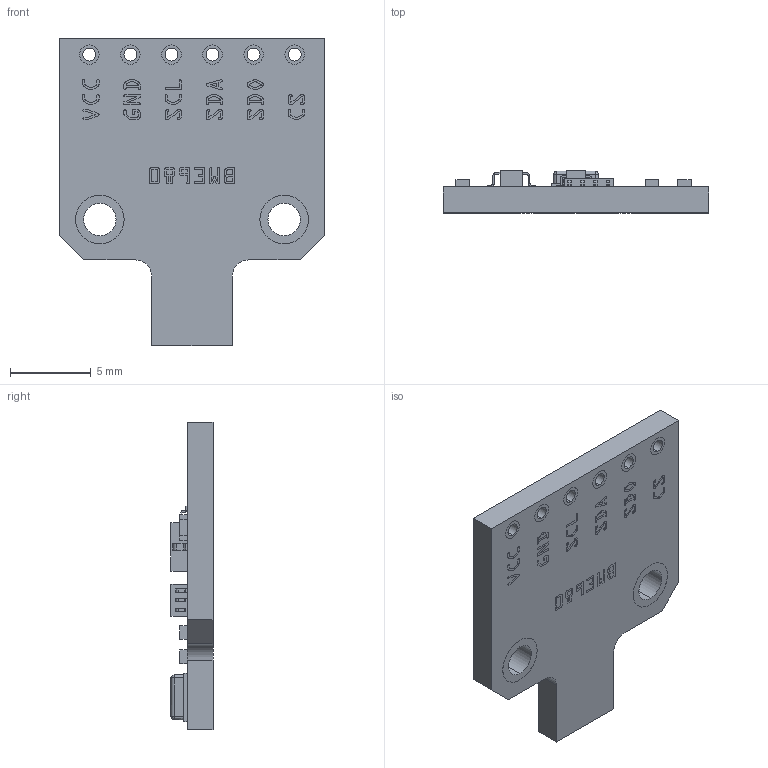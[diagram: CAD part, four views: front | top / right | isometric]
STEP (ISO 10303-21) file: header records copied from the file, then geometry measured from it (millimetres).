
FILE_DESCRIPTION (( 'STEP AP214' ), '1' );
FILE_NAME ('CJMCU-680, BME680 Ambient Temperature, Relative Humidity, Barometric Pressure, and Gas VOC Sensor.STEP', '2021-11-07T03:27:10', ( '' ), ( '' ), 'SwSTEP 2.0', 'SolidWorks 2018', '' );
FILE_SCHEMA (( 'AUTOMOTIVE_DESIGN' ));
Length unit declared in the file: millimetre
Products named in the file (11): Level Signal Conversion Chip, CJMCU-680, BME680 Ambient Temperature, Relative Humidity, Barometric Pressure, and Gas VOC Sensor; PCB, CJMCU-680, BME680 Ambient Temperature, Relative Humidity, Barometric Pressure, and Gas VOC Sensor; SMD Capacitor, Configurable, CJMCU-680, BME680 Ambient Temperature, Relative Humidity, Barometric Pressure, and Gas VOC Sensor_C3; SMD Capacitor, Configurable, CJMCU-680, BME680 Ambient Temperature, Relative Humidity, Barometric Pressure, and Gas VOC Sensor_C2; SMD Capacitor, Configurable, CJMCU-680, BME680 Ambient Temperature, Relative Humidity, Barometric Pressure, and Gas VOC Sensor_C1; SMD Resistor, Configurable, CJMCU-680, BME680 Ambient Temperature, Relative Humidity, Barometric Pressure, and Gas VOC Sensor_R1; 3.3V LDO Regulator, CJMCU-680, BME680 Ambient Temperature, Relative Humidity, Barometric Pressure, and Gas VOC Sensor; SMD Resistor, Configurable, CJMCU-680, BME680 Ambient Temperature, Relative Humidity, Barometric Pressure, and Gas VOC Sensor_R2; 8 Legs SMD Component, CJMCU-680, BME680 Ambient Temperature, Relative Humidity, Barometric Pressure, and Gas VOC Sensor; Sensor Module, CJMCU-680, BME680 Ambient Temperature, Relative Humidity, Barometric Pressure, and Gas VOC Sensor; CJMCU-680, BME680 Ambient Temperature, Relative Humidity, Barometric Pressure, and Gas VOC Sensor
Assembly tree (10 placements, depth 2):
  CJMCU-680, BME680 Ambient Temperature, Relative Humidity, Barometric Pressure, and Gas VOC Sensor
    PCB, CJMCU-680, BME680 Ambient Temperature, Relative Humidity, Barometric Pressure, and Gas VOC Sensor
    Sensor Module, CJMCU-680, BME680 Ambient Temperature, Relative Humidity, Barometric Pressure, and Gas VOC Sensor
    3.3V LDO Regulator, CJMCU-680, BME680 Ambient Temperature, Relative Humidity, Barometric Pressure, and Gas VOC Sensor
    Level Signal Conversion Chip, CJMCU-680, BME680 Ambient Temperature, Relative Humidity, Barometric Pressure, and Gas VOC Sensor
    8 Legs SMD Component, CJMCU-680, BME680 Ambient Temperature, Relative Humidity, Barometric Pressure, and Gas VOC Sensor
    SMD Resistor, Configurable, CJMCU-680, BME680 Ambient Temperature, Relative Humidity, Barometric Pressure, and Gas VOC Sensor_R2
    SMD Resistor, Configurable, CJMCU-680, BME680 Ambient Temperature, Relative Humidity, Barometric Pressure, and Gas VOC Sensor_R1
    SMD Capacitor, Configurable, CJMCU-680, BME680 Ambient Temperature, Relative Humidity, Barometric Pressure, and Gas VOC Sensor_C1
    SMD Capacitor, Configurable, CJMCU-680, BME680 Ambient Temperature, Relative Humidity, Barometric Pressure, and Gas VOC Sensor_C2
    SMD Capacitor, Configurable, CJMCU-680, BME680 Ambient Temperature, Relative Humidity, Barometric Pressure, and Gas VOC Sensor_C3
Bounding box: 16.4 x 2.6 x 19 mm (x, y, z)
Volume: 404.3 mm3; surface area: 748.5 mm2
Topology: 21 solids, 21 shells, 1263 faces, 3388 edges, 2252 vertices
Faces by surface type: plane 707, bspline 428, cylinder 124, cone 4
Entity records: 64435 total; most frequent: CARTESIAN_POINT 22540, ORIENTED_EDGE 6768, DIRECTION 4464, EDGE_CURVE 3384, VECTOR 2280, LINE 2280, VERTEX_POINT 2252, EDGE_LOOP 1370
